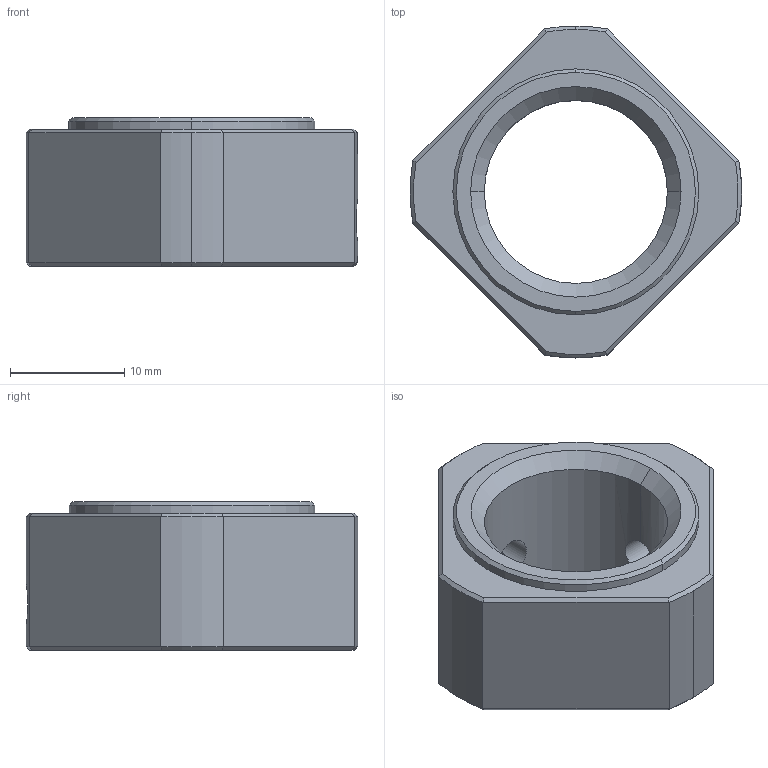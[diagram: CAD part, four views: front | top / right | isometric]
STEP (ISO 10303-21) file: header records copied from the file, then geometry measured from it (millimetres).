
FILE_DESCRIPTION (( 'STEP AP203' ), '1' );
FILE_NAME ('玛㏕脸碪(家舱篈).STEP', '2013-01-22T02:28:18', ( '' ), ( '' ), 'SwSTEP 2.0', 'SolidWorks 2012', '' );
FILE_SCHEMA (( 'CONFIG_CONTROL_DESIGN' ));
Length unit declared in the file: millimetre
Products named in the file (1): 鎖固螺帽(模型組態)
Bounding box: 28.97 x 29 x 13 mm (x, y, z)
Volume: 4180.7 mm3; surface area: 2487.4 mm2
Topology: 1 solids, 1 shells, 46 faces, 105 edges, 61 vertices
Faces by surface type: plane 15, cone 14, cylinder 13, bspline 4
Entity records: 1749 total; most frequent: CARTESIAN_POINT 683, ORIENTED_EDGE 210, DIRECTION 192, EDGE_CURVE 105, AXIS2_PLACEMENT_3D 76, VERTEX_POINT 61, EDGE_LOOP 52, FACE_OUTER_BOUND 46
